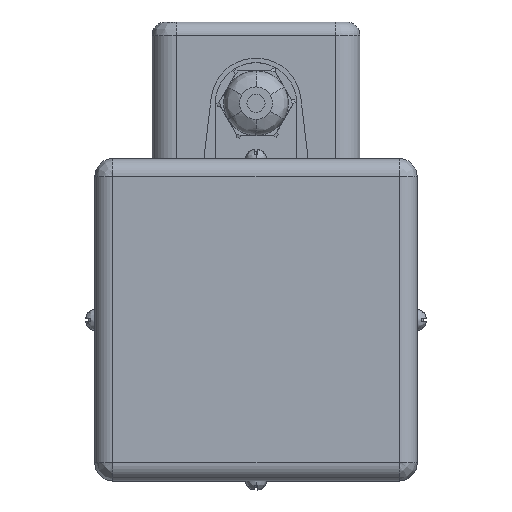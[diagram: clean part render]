
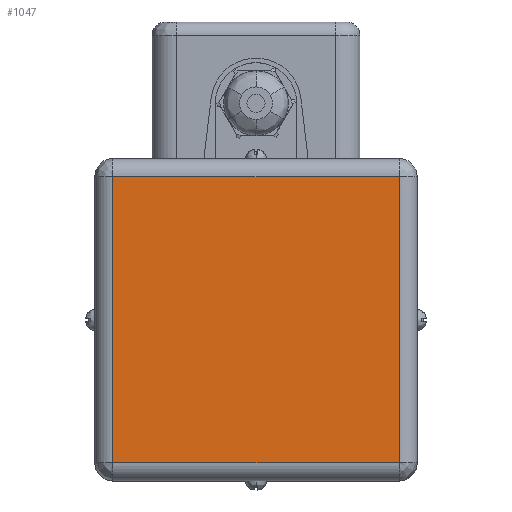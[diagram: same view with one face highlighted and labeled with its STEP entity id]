
A CAD part, top view. The second image highlights one B-rep face of the part: STEP entity #1047.
In plain terms, the highlighted planar face has unit normal (0, 0, 1).
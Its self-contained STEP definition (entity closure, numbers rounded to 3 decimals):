
#436 = EDGE_CURVE ( 'NONE', #2233, #2239, #6167, .T. ) ;
#1047 = ADVANCED_FACE ( 'NONE', ( #7609 ), #8645, .T. ) ;
#1389 = EDGE_LOOP ( 'NONE', ( #1522, #1523, #1524, #1525 ) ) ;
#1522 = ORIENTED_EDGE ( 'NONE', *, *, #1721, .T. ) ;
#1523 = ORIENTED_EDGE ( 'NONE', *, *, #1712, .T. ) ;
#1524 = ORIENTED_EDGE ( 'NONE', *, *, #436, .T. ) ;
#1525 = ORIENTED_EDGE ( 'NONE', *, *, #1734, .T. ) ;
#1712 = EDGE_CURVE ( 'NONE', #2308, #2233, #10273, .T. ) ;
#1721 = EDGE_CURVE ( 'NONE', #2240, #2308, #10282, .T. ) ;
#1734 = EDGE_CURVE ( 'NONE', #2239, #2240, #10294, .T. ) ;
#2233 = VERTEX_POINT ( 'NONE', #11339 ) ;
#2239 = VERTEX_POINT ( 'NONE', #11345 ) ;
#2240 = VERTEX_POINT ( 'NONE', #11346 ) ;
#2308 = VERTEX_POINT ( 'NONE', #11414 ) ;
#6167 = LINE ( 'NONE', #6394, #6171 ) ;
#6171 = VECTOR ( 'NONE', #6399, 1000. ) ;
#6394 = CARTESIAN_POINT ( 'NONE',  ( 0., 47.5, 173. ) ) ;
#6399 = DIRECTION ( 'NONE',  ( -1., 0., 0. ) ) ;
#7609 = FACE_OUTER_BOUND ( 'NONE', #1389, .T. ) ;
#8496 = AXIS2_PLACEMENT_3D ( 'NONE', #8644, #8662, #8663 ) ;
#8644 = CARTESIAN_POINT ( 'NONE',  ( -47.5, -47.5, 173. ) ) ;
#8645 = PLANE ( 'NONE',  #8496 ) ;
#8662 = DIRECTION ( 'NONE',  ( 0., 0., 1. ) ) ;
#8663 = DIRECTION ( 'NONE',  ( 1., 0., 0. ) ) ;
#10273 = LINE ( 'NONE', #10883, #10274 ) ;
#10274 = VECTOR ( 'NONE', #10884, 1000. ) ;
#10282 = LINE ( 'NONE', #10909, #10283 ) ;
#10283 = VECTOR ( 'NONE', #10910, 1000. ) ;
#10294 = LINE ( 'NONE', #10950, #10295 ) ;
#10295 = VECTOR ( 'NONE', #10951, 1000. ) ;
#10883 = CARTESIAN_POINT ( 'NONE',  ( 47.5, 0., 173. ) ) ;
#10884 = DIRECTION ( 'NONE',  ( 0., 1., 0. ) ) ;
#10909 = CARTESIAN_POINT ( 'NONE',  ( 0., -47.5, 173. ) ) ;
#10910 = DIRECTION ( 'NONE',  ( 1., 0., 0. ) ) ;
#10950 = CARTESIAN_POINT ( 'NONE',  ( -47.5, 0., 173. ) ) ;
#10951 = DIRECTION ( 'NONE',  ( 0., -1., 0. ) ) ;
#11339 = CARTESIAN_POINT ( 'NONE',  ( 47.5, 47.5, 173. ) ) ;
#11345 = CARTESIAN_POINT ( 'NONE',  ( -47.5, 47.5, 173. ) ) ;
#11346 = CARTESIAN_POINT ( 'NONE',  ( -47.5, -47.5, 173. ) ) ;
#11414 = CARTESIAN_POINT ( 'NONE',  ( 47.5, -47.5, 173. ) ) ;
